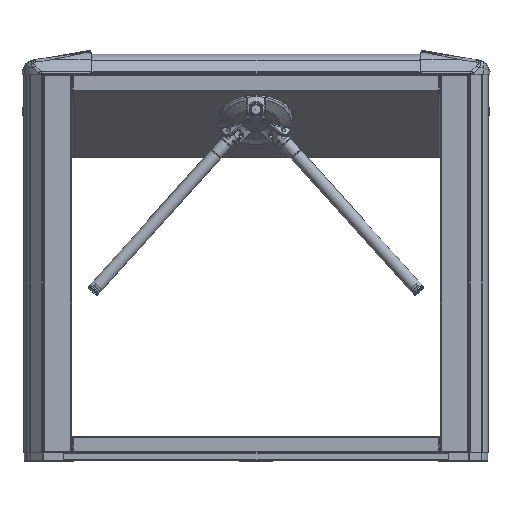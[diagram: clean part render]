
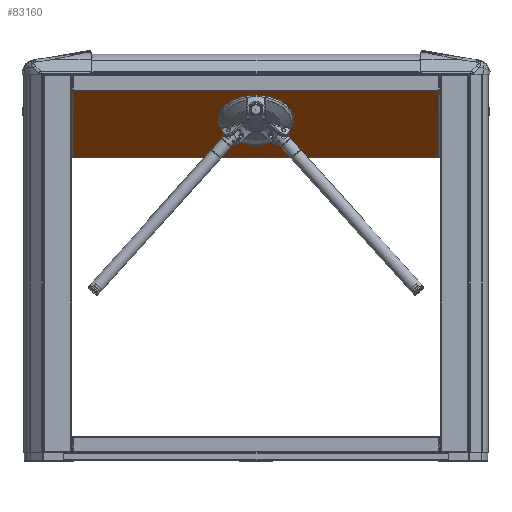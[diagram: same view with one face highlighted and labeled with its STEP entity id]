
A CAD part, front view. The second image highlights one B-rep face of the part: STEP entity #83160.
In plain terms, the highlighted planar face has unit normal (0, -0.643, -0.766).
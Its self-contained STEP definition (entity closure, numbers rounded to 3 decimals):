
#5352=CIRCLE('',#96382,94.);
#5371=CIRCLE('',#96426,2.5);
#5389=CIRCLE('',#96476,2.5);
#13213=ORIENTED_EDGE('',*,*,#36887,.F.);
#13214=ORIENTED_EDGE('',*,*,#36851,.T.);
#13215=ORIENTED_EDGE('',*,*,#36846,.F.);
#13216=ORIENTED_EDGE('',*,*,#36932,.T.);
#13217=ORIENTED_EDGE('',*,*,#36883,.F.);
#13218=ORIENTED_EDGE('',*,*,#36918,.T.);
#13219=ORIENTED_EDGE('',*,*,#36906,.F.);
#13220=ORIENTED_EDGE('',*,*,#36900,.T.);
#13221=ORIENTED_EDGE('',*,*,#36808,.T.);
#13222=ORIENTED_EDGE('',*,*,#36811,.F.);
#13223=ORIENTED_EDGE('',*,*,#36788,.T.);
#13224=ORIENTED_EDGE('',*,*,#36815,.F.);
#13225=ORIENTED_EDGE('',*,*,#36749,.T.);
#13226=ORIENTED_EDGE('',*,*,#36756,.F.);
#13227=ORIENTED_EDGE('',*,*,#36796,.T.);
#13228=ORIENTED_EDGE('',*,*,#36911,.F.);
#13229=ORIENTED_EDGE('',*,*,#36720,.F.);
#36720=EDGE_CURVE('',#48874,#48874,#5352,.T.);
#36749=EDGE_CURVE('',#48895,#48896,#56991,.T.);
#36756=EDGE_CURVE('',#48899,#48896,#56995,.T.);
#36788=EDGE_CURVE('',#48922,#48921,#57018,.T.);
#36796=EDGE_CURVE('',#48899,#48927,#57023,.T.);
#36808=EDGE_CURVE('',#48933,#48934,#5371,.T.);
#36811=EDGE_CURVE('',#48922,#48934,#57026,.T.);
#36815=EDGE_CURVE('',#48895,#48921,#57030,.T.);
#36846=EDGE_CURVE('',#48957,#48956,#57058,.T.);
#36851=EDGE_CURVE('',#48960,#48956,#57061,.T.);
#36883=EDGE_CURVE('',#48983,#48984,#57084,.T.);
#36887=EDGE_CURVE('',#48960,#48986,#57087,.T.);
#36900=EDGE_CURVE('',#48994,#48933,#57093,.T.);
#36906=EDGE_CURVE('',#48994,#48996,#5389,.T.);
#36911=EDGE_CURVE('',#48986,#48927,#57097,.T.);
#36918=EDGE_CURVE('',#48983,#48996,#57104,.T.);
#36932=EDGE_CURVE('',#48957,#48984,#57118,.T.);
#48874=VERTEX_POINT('',#134103);
#48895=VERTEX_POINT('',#134168);
#48896=VERTEX_POINT('',#134169);
#48899=VERTEX_POINT('',#134225);
#48921=VERTEX_POINT('',#134287);
#48922=VERTEX_POINT('',#134289);
#48927=VERTEX_POINT('',#134302);
#48933=VERTEX_POINT('',#134468);
#48934=VERTEX_POINT('',#134646);
#48956=VERTEX_POINT('',#134785);
#48957=VERTEX_POINT('',#134789);
#48960=VERTEX_POINT('',#134799);
#48983=VERTEX_POINT('',#134862);
#48984=VERTEX_POINT('',#134864);
#48986=VERTEX_POINT('',#134871);
#48994=VERTEX_POINT('',#134911);
#48996=VERTEX_POINT('',#135230);
#56991=LINE('',#134167,#63206);
#56995=LINE('',#134224,#63210);
#57018=LINE('',#134288,#63233);
#57023=LINE('',#134303,#63238);
#57026=LINE('',#134670,#63241);
#57030=LINE('',#134677,#63245);
#57058=LINE('',#134788,#63273);
#57061=LINE('',#134798,#63276);
#57084=LINE('',#134863,#63299);
#57087=LINE('',#134870,#63302);
#57093=LINE('',#134910,#63308);
#57097=LINE('',#135249,#63312);
#57104=LINE('',#135261,#63319);
#57118=LINE('',#135286,#63333);
#63206=VECTOR('',#106996,1000.);
#63210=VECTOR('',#107008,1000.);
#63233=VECTOR('',#107067,1000.);
#63238=VECTOR('',#107080,1000.);
#63241=VECTOR('',#107099,1000.);
#63245=VECTOR('',#107109,1000.);
#63273=VECTOR('',#107161,1000.);
#63276=VECTOR('',#107172,1000.);
#63299=VECTOR('',#107231,1000.);
#63302=VECTOR('',#107238,1000.);
#63308=VECTOR('',#107258,1000.);
#63312=VECTOR('',#107272,1000.);
#63319=VECTOR('',#107289,1000.);
#63333=VECTOR('',#107325,1000.);
#69259=EDGE_LOOP('',(#13213,#13214,#13215,#13216,#13217,#13218,#13219,#13220,
#13221,#13222,#13223,#13224,#13225,#13226,#13227,#13228));
#69260=EDGE_LOOP('',(#13229));
#75301=FACE_BOUND('',#69259,.T.);
#75302=FACE_BOUND('',#69260,.T.);
#80890=PLANE('',#96495);
#83160=ADVANCED_FACE('',(#75301,#75302),#80890,.T.);
#96382=AXIS2_PLACEMENT_3D('',#134102,#106944,#106945);
#96426=AXIS2_PLACEMENT_3D('',#134665,#107091,#107092);
#96476=AXIS2_PLACEMENT_3D('',#135242,#107261,#107262);
#96495=AXIS2_PLACEMENT_3D('',#135285,#107323,#107324);
#106944=DIRECTION('',(0.,-0.643,-0.766));
#106945=DIRECTION('',(0.,-0.766,0.643));
#106996=DIRECTION('',(0.,-0.766,0.643));
#107008=DIRECTION('',(-1.,0.,0.));
#107067=DIRECTION('',(0.,-0.766,0.643));
#107080=DIRECTION('',(0.,-0.766,0.643));
#107091=DIRECTION('',(0.,0.643,0.766));
#107092=DIRECTION('',(0.,-0.766,0.643));
#107099=DIRECTION('',(-1.,0.,0.));
#107109=DIRECTION('',(1.,0.,0.));
#107161=DIRECTION('',(0.,-0.766,0.643));
#107172=DIRECTION('',(1.,0.,0.));
#107231=DIRECTION('',(0.,-0.766,0.643));
#107238=DIRECTION('',(0.,-0.766,0.643));
#107258=DIRECTION('',(1.,0.,0.));
#107261=DIRECTION('',(0.,-0.643,-0.766));
#107262=DIRECTION('',(0.,-0.766,0.643));
#107272=DIRECTION('',(1.,0.,0.));
#107289=DIRECTION('',(1.,0.,0.));
#107323=DIRECTION('',(0.,-0.643,-0.766));
#107324=DIRECTION('',(0.,-0.766,0.643));
#107325=DIRECTION('',(-1.,0.,0.));
#134102=CARTESIAN_POINT('',(0.,-34.303,855.092));
#134103=CARTESIAN_POINT('',(0.,-106.311,915.514));
#134167=CARTESIAN_POINT('',(457.,-118.852,926.037));
#134168=CARTESIAN_POINT('',(457.,78.995,760.023));
#134169=CARTESIAN_POINT('',(457.,-118.852,926.037));
#134224=CARTESIAN_POINT('',(-460.,-118.852,926.037));
#134225=CARTESIAN_POINT('',(458.3,-118.852,926.037));
#134287=CARTESIAN_POINT('',(458.3,78.995,760.023));
#134288=CARTESIAN_POINT('',(458.3,-120.,927.));
#134289=CARTESIAN_POINT('',(458.3,79.072,759.959));
#134302=CARTESIAN_POINT('',(458.3,-118.928,926.101));
#134303=CARTESIAN_POINT('',(458.3,-120.,927.));
#134468=CARTESIAN_POINT('',(394.014,79.072,759.959));
#134646=CARTESIAN_POINT('',(395.986,79.072,759.959));
#134665=CARTESIAN_POINT('',(395.,80.831,758.482));
#134670=CARTESIAN_POINT('',(-492.295,79.072,759.959));
#134677=CARTESIAN_POINT('',(-457.,78.995,760.023));
#134785=CARTESIAN_POINT('',(-457.,-118.852,926.037));
#134788=CARTESIAN_POINT('',(-457.,-118.852,926.037));
#134789=CARTESIAN_POINT('',(-457.,78.995,760.023));
#134798=CARTESIAN_POINT('',(-460.,-118.852,926.037));
#134799=CARTESIAN_POINT('',(-458.3,-118.852,926.037));
#134862=CARTESIAN_POINT('',(-458.3,79.072,759.959));
#134863=CARTESIAN_POINT('',(-458.3,-118.928,926.101));
#134864=CARTESIAN_POINT('',(-458.3,78.995,760.023));
#134870=CARTESIAN_POINT('',(-458.3,-120.,927.));
#134871=CARTESIAN_POINT('',(-458.3,-118.928,926.101));
#134910=CARTESIAN_POINT('',(-492.295,79.072,759.959));
#134911=CARTESIAN_POINT('',(-394.014,79.072,759.959));
#135230=CARTESIAN_POINT('',(-395.986,79.072,759.959));
#135242=CARTESIAN_POINT('',(-395.,80.831,758.482));
#135249=CARTESIAN_POINT('',(-460.,-118.928,926.101));
#135261=CARTESIAN_POINT('',(-460.,79.072,759.959));
#135285=CARTESIAN_POINT('',(-460.,-120.,927.));
#135286=CARTESIAN_POINT('',(-460.,78.995,760.023));
